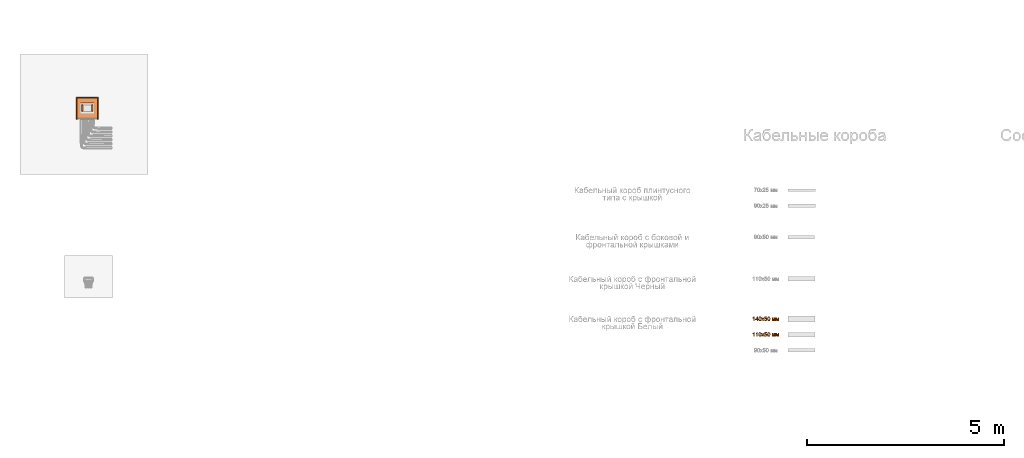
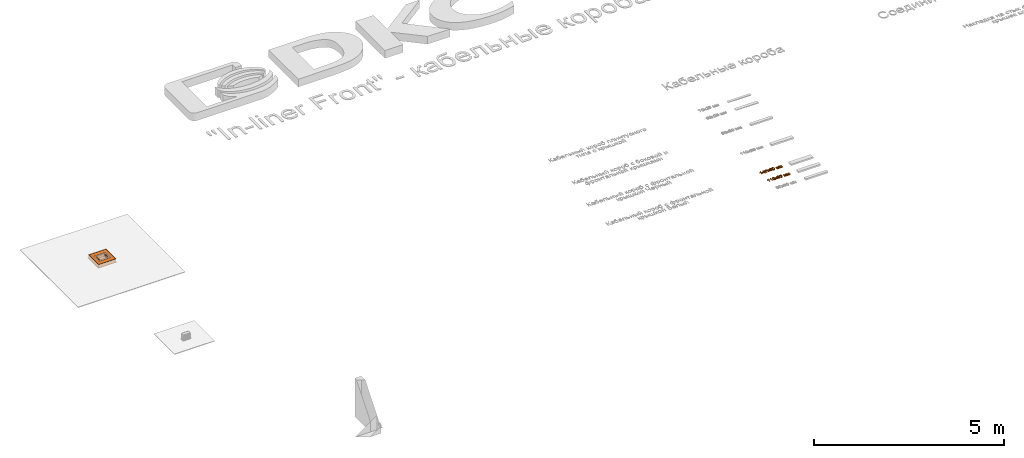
# One storey, part 44 of 87: 6 proxies.
"""IFC2X3 building model written with IfcOpenShell, lengths in millimetres."""

from ifc_helpers import new_model, entity, si_unit, converted_unit, derived_unit, direction, frame, origin, origin_2d_with_axis, place, context, subcontext, project, spatial, polyline, rectangle, outline, extrude, source, transform, mapped, material, type_object, type_shapes, element, save


model = new_model("IFC2X3")

# Units and contexts
model_context = context("Model", 3, precision=0.01, world=origin(), true_north=direction((6.12303176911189e-17, 1.0)))
body_context = subcontext(model_context, "Body", "Model", "MODEL_VIEW")
ifc_project = project(units=[si_unit("LENGTHUNIT", "METRE", prefix="MILLI"), si_unit("AREAUNIT", "SQUARE_METRE"), si_unit("VOLUMEUNIT", "CUBIC_METRE"), converted_unit("PLANEANGLEUNIT", "DEGREE", entity("IfcRatioMeasure", 0.0174532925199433), si_unit("PLANEANGLEUNIT", "RADIAN"), dimensions=[0, 0, 0, 0, 0, 0, 0]), si_unit("MASSUNIT", "GRAM", prefix="KILO"), derived_unit("MASSDENSITYUNIT", [(si_unit("MASSUNIT", "GRAM", prefix="KILO"), 1), (si_unit("LENGTHUNIT", "METRE"), -3)]), si_unit("TIMEUNIT", "SECOND"), si_unit("FREQUENCYUNIT", "HERTZ"), si_unit("THERMODYNAMICTEMPERATUREUNIT", "DEGREE_CELSIUS"), derived_unit("THERMALTRANSMITTANCEUNIT", [(si_unit("MASSUNIT", "GRAM", prefix="KILO"), 1), (si_unit("THERMODYNAMICTEMPERATUREUNIT", "KELVIN"), -1), (si_unit("TIMEUNIT", "SECOND"), -3)]), derived_unit("VOLUMETRICFLOWRATEUNIT", [(si_unit("LENGTHUNIT", "METRE"), 3), (si_unit("TIMEUNIT", "SECOND"), -1)]), si_unit("ELECTRICCURRENTUNIT", "AMPERE"), si_unit("ELECTRICVOLTAGEUNIT", "VOLT"), si_unit("POWERUNIT", "WATT"), si_unit("FORCEUNIT", "NEWTON", prefix="KILO"), si_unit("ILLUMINANCEUNIT", "LUX"), si_unit("LUMINOUSFLUXUNIT", "LUMEN"), si_unit("LUMINOUSINTENSITYUNIT", "CANDELA"), derived_unit("USERDEFINED", [(si_unit("MASSUNIT", "GRAM", prefix="KILO"), -1), (si_unit("LENGTHUNIT", "METRE"), -2), (si_unit("TIMEUNIT", "SECOND"), 3), (si_unit("LUMINOUSFLUXUNIT", "LUMEN"), 1)]), derived_unit("LINEARVELOCITYUNIT", [(si_unit("LENGTHUNIT", "METRE"), 1), (si_unit("TIMEUNIT", "SECOND"), -1)]), si_unit("PRESSUREUNIT", "PASCAL"), derived_unit("USERDEFINED", [(si_unit("LENGTHUNIT", "METRE"), -2), (si_unit("MASSUNIT", "GRAM", prefix="KILO"), 1), (si_unit("TIMEUNIT", "SECOND"), -2)])], contexts=[model_context])

# Site, building, storey
site_placement = place(None, origin())
site = spatial("IfcSite", under=ifc_project, at=site_placement, Name="Default", CompositionType="ELEMENT")
building_placement = place(site_placement, origin())
building = spatial("IfcBuilding", under=site, at=building_placement, Name="Наименование здания", CompositionType="ELEMENT")
storey_placement = place(building_placement, origin())
storey = spatial("IfcBuildingStorey", under=building, at=storey_placement, Name="Этаж 01", CompositionType="ELEMENT", Elevation=0.0)

# Proxies
building_element_proxy_type_1 = type_object("IfcBuildingElementProxyType", Name="Опалубка для лючков металлическая", PredefinedType="NOTDEFINED")
shared_shape_1 = source(origin(), body_context, "Body", "SweptSolid", [
    extrude(outline(polyline([(-265.0, -265.0), (265.0, -265.0), (265.0, 265.0), (-265.0, 265.0), (-265.0, -265.0)]), holes=[polyline([(-245.0, -245.0), (-245.0, 245.0), (245.0, 245.0), (245.0, -245.0), (-245.0, -245.0)])]), frame((0.0, 0.0, 98.4999999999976), z_axis=(0.0, 0.0, 1.0), x_axis=(-1.0, 0.0, 0.0)), (0.0, 0.0, 1.0), 0.999999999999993),
    extrude(outline(polyline([(-265.0, -265.0), (265.0, -265.0), (265.0, 265.0), (-265.0, 265.0), (-265.0, -265.0)]), holes=[polyline([(-264.0, -264.0), (-264.0, 264.0), (264.0, 264.0), (264.0, -264.0), (-264.0, -264.0)])]), frame((0.0, 0.0, 2.0), z_axis=(0.0, 0.0, 1.0), x_axis=(-1.0, 0.0, 0.0)), (0.0, 0.0, 1.0), 97.4999999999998),
    extrude(rectangle(XDim=570.000000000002, YDim=570.000000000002, at=origin_2d_with_axis()), frame((0.0, 0.0, 0.0), z_axis=(0.0, 0.0, 1.0), x_axis=(-1.0, 0.0, 0.0)), (0.0, 0.0, 1.0), 1.99999999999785),
])
type_shapes(building_element_proxy_type_1, [shared_shape_1])
proxy_1_placement = place(storey_placement, frame((-16815.2403415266, 6724.43420853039, -101.499999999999)))
element("IfcBuildingElementProxy", 1, at=proxy_1_placement, inside=storey, type_object=building_element_proxy_type_1, Name="Опалубка для лючков металлическая:Опалубка для лючков металлическая", ObjectType="Опалубка для лючков металлическая", context=body_context, shape_type="MappedRepresentation", body=[
    mapped(shared_shape_1, transform((0.0, 0.0, 0.0), scale=1.0)),
])
ifc_material = material(Name="DKC_Пластик_Белый")
building_element_proxy_type_2 = type_object("IfcBuildingElementProxyType", Name="Белый", PredefinedType="NOTDEFINED", material=ifc_material)
shared_shape_2 = source(origin(), body_context, "Body", "SweptSolid", [
    extrude(outline(polyline([(-25.5, -80.2000000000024), (25.5, -80.2000000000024), (25.5, 80.2000000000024), (-25.5, 80.2000000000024), (-25.5, -80.2000000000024)]), holes=[polyline([(-22.5, -75.0), (-22.5, 75.0), (22.5, 75.0), (22.5, -75.0), (-22.5, -75.0)])]), frame((0.0, -20.7999999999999, 0.0), z_axis=(0.0, 1.0, 0.0), x_axis=(0.0, 0.0, -1.0)), (0.0, 0.0, 1.0), 20.7999999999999),
])
type_shapes(building_element_proxy_type_2, [shared_shape_2])
proxy_2_placement = place(storey_placement, frame((-16954.0567368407, 6730.32537465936, -40.0), z_axis=(0.0, 0.0, 1.0), x_axis=(0.0, 1.0, 0.0)))
element("IfcBuildingElementProxy", 2, at=proxy_2_placement, inside=storey, type_object=building_element_proxy_type_2, material=ifc_material, Name="КНС_Каркас6МодулейДляМонтажаЭУИСерииViva_ILF_DKC:Белый", ObjectType="Белый", context=body_context, shape_type="MappedRepresentation", body=[
    mapped(shared_shape_2, transform((0.0, 0.0, 0.0), scale=1.0)),
])
building_element_proxy_type_3 = type_object("IfcBuildingElementProxyType", Name="Белый", PredefinedType="NOTDEFINED", material=ifc_material)
shared_shape_3 = source(origin(), body_context, "Body", "SweptSolid", [
    extrude(outline(polyline([(-25.5, -80.2000000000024), (25.5, -80.2000000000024), (25.5, 80.2000000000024), (-25.5, 80.2000000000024), (-25.5, -80.2000000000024)]), holes=[polyline([(-22.5, -75.0), (-22.5, 75.0), (22.5, 75.0), (22.5, -75.0), (-22.5, -75.0)])]), frame((0.0, 0.0, 0.0), z_axis=(0.0, 1.0, 0.0), x_axis=(0.0, 0.0, -1.0)), (0.0, 0.0, 1.0), 20.7999999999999),
])
type_shapes(building_element_proxy_type_3, [shared_shape_3])
proxy_3_placement = place(storey_placement, frame((-16676.4239462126, 6730.32537465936, -40.0), z_axis=(0.0, 0.0, 1.0), x_axis=(0.0, 1.0, 0.0)))
element("IfcBuildingElementProxy", 3, at=proxy_3_placement, inside=storey, type_object=building_element_proxy_type_3, material=ifc_material, Name="КНС_Каркас6МодулейДляМонтажаЭУИСерииViva_ILF_DKC:Белый", ObjectType="Белый", context=body_context, shape_type="MappedRepresentation", body=[
    mapped(shared_shape_3, transform((0.0, 0.0, 0.0), scale=1.0)),
])
building_element_proxy_type_4 = type_object("IfcBuildingElementProxyType", Name="Крышка опалубки для установки лючка In-liner Front 12 модулей", PredefinedType="NOTDEFINED")
shared_shape_4 = source(origin(), body_context, "Body", "SweptSolid", [
    extrude(outline(polyline([(-257.500000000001, -257.500000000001), (257.500000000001, -257.500000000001), (257.500000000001, 257.500000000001), (-257.500000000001, 257.500000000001), (-257.500000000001, -257.500000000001)]), holes=[polyline([(-131.0, -174.500000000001), (-131.0, 174.500000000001), (131.0, 174.500000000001), (131.0, -174.500000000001), (-131.0, -174.500000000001)])]), frame((0.0, 0.0, 0.0), z_axis=(0.0, 0.0, 1.0), x_axis=(-1.0, 0.0, 0.0)), (0.0, 0.0, 1.0), 1.99999999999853),
])
type_shapes(building_element_proxy_type_4, [shared_shape_4])
proxy_4_placement = place(storey_placement, frame((-16815.2403415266, 6724.43420853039, -2.0), z_axis=(0.0, 0.0, 1.0), x_axis=(0.0, 1.0, 0.0)))
element("IfcBuildingElementProxy", 4, at=proxy_4_placement, inside=storey, type_object=building_element_proxy_type_4, Name="Крышка опалубки для установки лючка In-liner Front 12 модулей:Крышка опалубки для установки лючка In-liner Front 12 модулей", ObjectType="Крышка опалубки для установки лючка In-liner Front 12 модулей", context=body_context, shape_type="MappedRepresentation", body=[
    mapped(shared_shape_4, transform((0.0, 0.0, 0.0), scale=1.0)),
])
proxy_5_placement = place(storey_placement, origin())
element("IfcBuildingElementProxy", 5, at=proxy_5_placement, inside=storey, Name="Текст модели:100 мм Arial", ObjectType="Текст модели:100 мм Arial", context=body_context, shape_type="SweptSolid", body=[
    extrude(outline(polyline([(-63.8793021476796, -16.9184842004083), (36.5770080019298, -16.9184842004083), (36.5770080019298, -8.82508030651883), (23.2106288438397, 2.34626961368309), (11.4629304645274, 20.7526321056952), (-0.407395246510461, 20.7526321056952), (5.93243780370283, 7.53340574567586), (14.4059864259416, -4.3614454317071), (-63.8793021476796, -4.3614454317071), (-63.8793021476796, -16.9184842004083)])), frame((129.947977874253, 1390.61672560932, 0.0), z_axis=(0.0, 0.0, 1.0), x_axis=(0.0, 1.0, 0.0)), (0.0, 0.0, 1.0), 20.0),
    extrude(outline(polyline([(-1.14154897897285, -36.3868737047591), (11.4154897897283, -36.3868737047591), (11.4154897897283, -12.8424260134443), (23.9725285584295, -12.8424260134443), (23.9725285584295, -0.285387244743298), (11.4154897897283, -0.285387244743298), (11.4154897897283, 62.4998065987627), (1.99771071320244, 62.4998065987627), (-46.6608145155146, -0.285387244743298), (-46.6608145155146, -12.8424260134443), (-1.14154897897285, -12.8424260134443), (-1.14154897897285, -36.3868737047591)]), holes=[polyline([(-1.14154897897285, -0.285387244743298), (-31.2097707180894, -0.285387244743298), (-1.14154897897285, 38.5139005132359), (-1.14154897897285, -0.285387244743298)])]), frame((218.641354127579, 1363.1242971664, 0.0)), (0.0, 0.0, 1.0), 20.0),
    extrude(outline(polyline([(-7.02884310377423, -33.3490673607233), (17.5323805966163, -33.3490673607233), (35.1984171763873, -27.6137612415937), (43.3439841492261, -18.4876517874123), (47.051694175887, -5.75150665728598), (46.7162020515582, 4.48638208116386), (43.4465778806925, 13.0955287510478), (27.9444305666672, 25.6659118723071), (-0.314338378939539, 32.23255354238), (-24.0296505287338, 32.3678288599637), (-39.4143020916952, 28.0260881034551), (-49.72936801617, 18.900217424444), (-54.4436715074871, 4.6399887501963), (-50.8676582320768, -14.130105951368), (-35.4058547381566, -26.7333390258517), (-7.02884310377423, -33.3490673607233)]), holes=[polyline([(-5.77428774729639, -20.8548320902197), (-25.0157644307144, -17.3562860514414), (-36.725708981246, -11.5717922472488), (-41.0962588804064, -4.77599682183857), (-41.966921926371, 3.21464792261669), (-39.2244253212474, 11.2791292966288), (-32.8654063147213, 17.2229259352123), (-20.9698370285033, 20.2947501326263), (-1.61768958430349, 19.74331418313), (17.8514140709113, 16.2707701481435), (28.7803640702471, 10.7141596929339), (33.5546988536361, 3.61815959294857), (34.5599568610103, -4.4725533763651), (31.9421230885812, -12.1923199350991), (25.8471825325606, -18.1754808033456), (14.0250679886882, -21.4027476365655), (-5.77428774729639, -20.8548320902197)])]), frame((287.492829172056, 1372.56060040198, 0.0), z_axis=(0.0, 0.0, 1.0), x_axis=(0.101851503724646, -0.994799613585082, 0.0)), (0.0, 0.0, 1.0), 20.0),
    extrude(outline(polyline([(-34.5302215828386, -38.4265006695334), (-19.4225343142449, -38.4265006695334), (-0.341721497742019, -12.0616243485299), (2.47870713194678, -16.1328517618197), (17.8561745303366, -38.4265006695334), (32.9638617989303, -38.4265006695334), (7.40832586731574, -1.34399555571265), (33.944880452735, 35.3461020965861), (18.8371931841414, 35.3461020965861), (4.95577923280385, 16.1671874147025), (0.0261604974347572, 9.34910777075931), (-5.66374769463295, 17.6877663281), (-17.8529044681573, 35.3461020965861), (-32.9605917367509, 35.3461020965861), (-7.69936140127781, -1.34399555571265), (-34.5302215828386, -38.4265006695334)])), frame((360.334486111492, 1365.16392413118, 0.0)), (0.0, 0.0, 1.0), 20.0),
    extrude(outline(polyline([(3.81439562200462, -37.2548959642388), (15.73239467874, -37.2548959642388), (26.158813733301, -33.0579698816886), (34.2921694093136, -25.053720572), (39.3309783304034, -13.6317508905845), (40.22192881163, 1.43409098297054), (34.3991305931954, 14.6815107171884), (25.5350217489, 23.1481891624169), (13.9054384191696, 28.2770976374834), (0.912111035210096, 29.4702838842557), (-10.7159258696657, 25.7768606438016), (-19.742707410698, 18.0989984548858), (-24.9322687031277, 7.33886785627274), (-25.5937300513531, -2.21124798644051), (-22.6370240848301, -12.2793380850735), (-47.9924930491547, 0.0204883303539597), (-38.0977082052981, 37.2324069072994), (-50.2330599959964, 40.4592412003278), (-62.7370428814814, -6.56524698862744), (-15.5021967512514, -30.4943712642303), (-10.7584434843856, -18.7623737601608), (-14.4216298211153, -10.4922324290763), (-13.6981616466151, 0.722667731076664), (-9.98738154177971, 9.35727561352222), (-4.32553373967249, 14.6878856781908), (11.4370636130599, 15.940068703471), (19.7481682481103, 12.2772427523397), (25.4355726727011, 6.40632241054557), (28.0665145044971, -1.27212018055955), (27.2082313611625, -10.3575128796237), (19.6530635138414, -21.9256319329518), (5.52431094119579, -24.7161898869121), (3.81439562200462, -37.2548959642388)])), frame((436.170108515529, 1366.68097750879, 0.0), z_axis=(0.0, 0.0, 1.0), x_axis=(0.256974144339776, -0.966418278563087, 0.0)), (0.0, 0.0, 1.0), 20.0),
    extrude(outline(polyline([(-7.02884310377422, -33.3490673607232), (17.5323805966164, -33.3490673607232), (35.1984171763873, -27.6137612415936), (43.3439841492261, -18.4876517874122), (47.051694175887, -5.75150665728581), (46.7162020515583, 4.48638208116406), (43.4465778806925, 13.095528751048), (27.9444305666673, 25.6659118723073), (-0.314338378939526, 32.2325535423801), (-24.0296505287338, 32.3678288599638), (-39.4143020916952, 28.0260881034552), (-49.72936801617, 18.9002174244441), (-54.4436715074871, 4.63998875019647), (-50.8676582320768, -14.1301059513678), (-35.4058547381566, -26.7333390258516), (-7.02884310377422, -33.3490673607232)]), holes=[polyline([(-5.77428774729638, -20.8548320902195), (-25.0157644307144, -17.3562860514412), (-36.725708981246, -11.5717922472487), (-41.0962588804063, -4.77599682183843), (-41.966921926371, 3.21464792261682), (-39.2244253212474, 11.2791292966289), (-32.8654063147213, 17.2229259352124), (-20.9698370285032, 20.2947501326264), (-1.61768958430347, 19.7433141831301), (17.8514140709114, 16.2707701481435), (28.7803640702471, 10.7141596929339), (33.5546988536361, 3.61815959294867), (34.5599568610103, -4.47255337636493), (31.9421230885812, -12.1923199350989), (25.8471825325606, -18.1754808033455), (14.0250679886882, -21.4027476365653), (-5.77428774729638, -20.8548320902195)])]), frame((511.949897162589, 1372.56060040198, 0.0), z_axis=(0.0, 0.0, 1.0), x_axis=(0.101851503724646, -0.994799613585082, 0.0)), (0.0, 0.0, 1.0), 20.0),
    extrude(outline(polyline([(-40.5839870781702, -38.4502715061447), (33.1886156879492, -38.4502715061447), (33.1886156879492, -25.8932327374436), (-29.0570178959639, -25.8932327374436), (33.1886156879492, -8.62730443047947), (33.1886156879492, 7.85380895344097), (-26.2120637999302, 25.9045521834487), (33.1886156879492, 25.9045521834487), (33.1886156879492, 38.46159095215), (-40.5839870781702, 38.46159095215), (-40.5839870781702, 17.7620973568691), (18.4733358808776, -0.190544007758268), (-40.5839870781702, -16.8433356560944), (-40.5839870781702, -38.4502715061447)])), frame((635.800499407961, 1359.92603914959, 0.0), z_axis=(0.0, 0.0, 1.0), x_axis=(0.0, -1.0, 0.0)), (0.0, 0.0, 1.0), 20.0),
    extrude(outline(polyline([(-40.5839870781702, -38.4502715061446), (33.1886156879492, -38.4502715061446), (33.1886156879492, -25.8932327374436), (-29.0570178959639, -25.8932327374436), (33.1886156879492, -8.62730443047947), (33.1886156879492, 7.85380895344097), (-26.2120637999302, 25.904552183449), (33.1886156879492, 25.904552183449), (33.1886156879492, 38.46159095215), (-40.5839870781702, 38.46159095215), (-40.5839870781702, 17.7620973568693), (18.4733358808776, -0.190544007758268), (-40.5839870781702, -16.8433356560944), (-40.5839870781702, -38.4502715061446)])), frame((731.547920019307, 1359.92603914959, 0.0), z_axis=(0.0, 0.0, 1.0), x_axis=(0.0, -1.0, 0.0)), (0.0, 0.0, 1.0), 20.0),
])
proxy_6_placement = place(storey_placement, origin())
element("IfcBuildingElementProxy", 6, at=proxy_6_placement, inside=storey, Name="Текст модели:100 мм Arial", ObjectType="Текст модели:100 мм Arial", context=body_context, shape_type="SweptSolid", body=[
    extrude(outline(polyline([(-63.8793021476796, -16.9184842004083), (36.5770080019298, -16.9184842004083), (36.5770080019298, -8.82508030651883), (23.2106288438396, 2.34626961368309), (11.4629304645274, 20.7526321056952), (-0.407395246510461, 20.7526321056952), (5.93243780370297, 7.53340574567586), (14.4059864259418, -4.3614454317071), (-63.8793021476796, -4.3614454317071), (-63.8793021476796, -16.9184842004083)])), frame((129.947977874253, 990.616725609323, 0.0), z_axis=(0.0, 0.0, 1.0), x_axis=(0.0, 1.0, 0.0)), (0.0, 0.0, 1.0), 20.0),
    extrude(outline(polyline([(-63.8793021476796, -16.9184842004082), (36.5770080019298, -16.9184842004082), (36.5770080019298, -8.82508030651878), (23.2106288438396, 2.34626961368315), (11.4629304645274, 20.7526321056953), (-0.407395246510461, 20.7526321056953), (5.93243780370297, 7.53340574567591), (14.4059864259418, -4.36144543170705), (-63.8793021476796, -4.36144543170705), (-63.8793021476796, -16.9184842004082)])), frame((206.859840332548, 990.616725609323, 0.0), z_axis=(0.0, 0.0, 1.0), x_axis=(0.0, 1.0, 0.0)), (0.0, 0.0, 1.0), 20.0),
    extrude(outline(polyline([(-7.02884310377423, -33.3490673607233), (17.5323805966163, -33.3490673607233), (35.1984171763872, -27.6137612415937), (43.3439841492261, -18.4876517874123), (47.051694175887, -5.75150665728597), (46.7162020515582, 4.48638208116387), (43.4465778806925, 13.0955287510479), (27.9444305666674, 25.6659118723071), (-0.314338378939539, 32.23255354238), (-24.0296505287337, 32.3678288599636), (-39.4143020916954, 28.0260881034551), (-49.7293680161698, 18.9002174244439), (-54.4436715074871, 4.63998875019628), (-50.8676582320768, -14.130105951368), (-35.4058547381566, -26.7333390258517), (-7.02884310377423, -33.3490673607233)]), holes=[polyline([(-5.77428774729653, -20.8548320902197), (-25.0157644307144, -17.3562860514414), (-36.7257089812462, -11.5717922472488), (-41.0962588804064, -4.77599682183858), (-41.9669219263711, 3.21464792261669), (-39.2244253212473, 11.2791292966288), (-32.8654063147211, 17.2229259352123), (-20.9698370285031, 20.2947501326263), (-1.61768958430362, 19.74331418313), (17.8514140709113, 16.2707701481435), (28.7803640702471, 10.7141596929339), (33.5546988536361, 3.61815959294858), (34.5599568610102, -4.47255337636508), (31.9421230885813, -12.1923199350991), (25.8471825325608, -18.1754808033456), (14.0250679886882, -21.4027476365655), (-5.77428774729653, -20.8548320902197)])]), frame((287.492829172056, 972.560600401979, 0.0), z_axis=(0.0, 0.0, 1.0), x_axis=(0.101851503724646, -0.994799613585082, 0.0)), (0.0, 0.0, 1.0), 20.0),
    extrude(outline(polyline([(-34.5302215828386, -38.4265006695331), (-19.4225343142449, -38.4265006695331), (-0.341721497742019, -12.0616243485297), (2.47870713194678, -16.1328517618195), (17.8561745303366, -38.4265006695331), (32.9638617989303, -38.4265006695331), (7.40832586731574, -1.34399555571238), (33.944880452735, 35.3461020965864), (18.8371931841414, 35.3461020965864), (4.95577923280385, 16.1671874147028), (0.0261604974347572, 9.34910777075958), (-5.66374769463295, 17.6877663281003), (-17.8529044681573, 35.3461020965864), (-32.9605917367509, 35.3461020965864), (-7.69936140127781, -1.34399555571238), (-34.5302215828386, -38.4265006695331)])), frame((360.334486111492, 965.163924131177, 0.0)), (0.0, 0.0, 1.0), 20.0),
    extrude(outline(polyline([(3.81439562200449, -37.2548959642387), (15.7323946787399, -37.2548959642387), (26.158813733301, -33.0579698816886), (34.2921694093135, -25.0537205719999), (39.3309783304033, -13.6317508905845), (40.2219288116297, 1.4340909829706), (34.3991305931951, 14.6815107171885), (25.5350217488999, 23.1481891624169), (13.9054384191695, 28.2770976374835), (0.912111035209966, 29.4702838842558), (-10.7159258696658, 25.7768606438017), (-19.742707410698, 18.0989984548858), (-24.9322687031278, 7.33886785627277), (-25.5937300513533, -2.21124798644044), (-22.6370240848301, -12.2793380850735), (-47.9924930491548, 0.0204883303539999), (-38.0977082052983, 37.2324069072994), (-50.2330599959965, 40.4592412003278), (-62.7370428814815, -6.5652469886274), (-15.5021967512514, -30.4943712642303), (-10.7584434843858, -18.7623737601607), (-14.4216298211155, -10.4922324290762), (-13.6981616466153, 0.722667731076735), (-9.98738154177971, 9.35727561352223), (-4.32553373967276, 14.6878856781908), (11.4370636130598, 15.940068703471), (19.7481682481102, 12.2772427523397), (25.4355726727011, 6.40632241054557), (28.066514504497, -1.27212018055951), (27.2082313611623, -10.3575128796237), (19.6530635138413, -21.9256319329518), (5.52431094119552, -24.716189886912), (3.81439562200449, -37.2548959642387)])), frame((436.170108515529, 966.680977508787, 0.0), z_axis=(0.0, 0.0, 1.0), x_axis=(0.256974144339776, -0.966418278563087, 0.0)), (0.0, 0.0, 1.0), 20.0),
    extrude(outline(polyline([(-7.02884310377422, -33.3490673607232), (17.5323805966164, -33.3490673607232), (35.1984171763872, -27.6137612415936), (43.3439841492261, -18.4876517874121), (47.051694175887, -5.7515066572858), (46.7162020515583, 4.48638208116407), (43.4465778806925, 13.095528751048), (27.9444305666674, 25.6659118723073), (-0.314338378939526, 32.2325535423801), (-24.0296505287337, 32.3678288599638), (-39.4143020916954, 28.0260881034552), (-49.7293680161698, 18.900217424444), (-54.4436715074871, 4.63998875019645), (-50.8676582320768, -14.1301059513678), (-35.4058547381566, -26.7333390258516), (-7.02884310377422, -33.3490673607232)]), holes=[polyline([(-5.77428774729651, -20.8548320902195), (-25.0157644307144, -17.3562860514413), (-36.7257089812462, -11.5717922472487), (-41.0962588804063, -4.77599682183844), (-41.9669219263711, 3.21464792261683), (-39.2244253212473, 11.2791292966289), (-32.8654063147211, 17.2229259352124), (-20.9698370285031, 20.2947501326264), (-1.61768958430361, 19.7433141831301), (17.8514140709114, 16.2707701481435), (28.7803640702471, 10.7141596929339), (33.5546988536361, 3.61815959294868), (34.5599568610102, -4.47255337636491), (31.9421230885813, -12.1923199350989), (25.8471825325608, -18.1754808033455), (14.0250679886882, -21.4027476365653), (-5.77428774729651, -20.8548320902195)])]), frame((511.949897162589, 972.560600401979, 0.0), z_axis=(0.0, 0.0, 1.0), x_axis=(0.101851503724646, -0.994799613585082, 0.0)), (0.0, 0.0, 1.0), 20.0),
    extrude(outline(polyline([(-40.58398707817, -38.4502715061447), (33.1886156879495, -38.4502715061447), (33.1886156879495, -25.8932327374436), (-29.0570178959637, -25.8932327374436), (33.1886156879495, -8.62730443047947), (33.1886156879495, 7.85380895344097), (-26.2120637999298, 25.9045521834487), (33.1886156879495, 25.9045521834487), (33.1886156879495, 38.46159095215), (-40.58398707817, 38.46159095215), (-40.58398707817, 17.7620973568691), (18.4733358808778, -0.190544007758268), (-40.58398707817, -16.8433356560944), (-40.58398707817, -38.4502715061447)])), frame((635.800499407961, 959.926039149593, 0.0), z_axis=(0.0, 0.0, 1.0), x_axis=(0.0, -1.0, 0.0)), (0.0, 0.0, 1.0), 20.0),
    extrude(outline(polyline([(-40.58398707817, -38.4502715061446), (33.1886156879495, -38.4502715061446), (33.1886156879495, -25.8932327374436), (-29.0570178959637, -25.8932327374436), (33.1886156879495, -8.62730443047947), (33.1886156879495, 7.85380895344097), (-26.2120637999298, 25.904552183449), (33.1886156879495, 25.904552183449), (33.1886156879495, 38.46159095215), (-40.58398707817, 38.46159095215), (-40.58398707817, 17.7620973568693), (18.4733358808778, -0.190544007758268), (-40.58398707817, -16.8433356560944), (-40.58398707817, -38.4502715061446)])), frame((731.547920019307, 959.926039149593, 0.0), z_axis=(0.0, 0.0, 1.0), x_axis=(0.0, -1.0, 0.0)), (0.0, 0.0, 1.0), 20.0),
])

save(model, "model.ifc")
